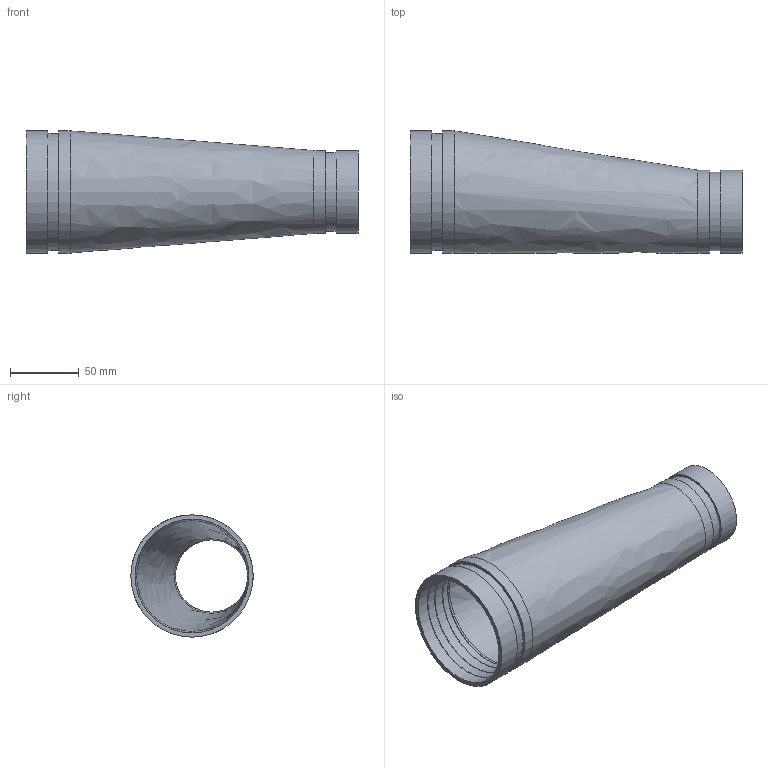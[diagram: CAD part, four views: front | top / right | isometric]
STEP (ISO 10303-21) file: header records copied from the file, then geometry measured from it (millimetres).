
FILE_DESCRIPTION(/* description */ ('VIC REDUCER ECCENTRIC No 451H-SS','CAx-IF Rec.Pracs.---Representation and Presentation of Product Manufacturing Information (PMI)---4.0---2014-10-13'),/* implementation_level */ '2;1');
FILE_NAME(/* name */ 'C:\Users\kkamble\AppData\Roaming\Autodesk\ApplicationPlugins\Back Up\Victaulic_SS-OGS_Reducer Eccentric_Sched 40S_No 451H SS (OGS)\Victaulic_SS-OGS_Reducer Eccentric_Sched 40S_No 451H SS (OGS)_03.0x02.0 (80x50).stp',/* time_stamp */ '2020-08-25T18:05:39+06:00',/* author */ ('CORINNE GRAY'),/* organization */ ('Victaulic'),/* preprocessor_version */ 'ST-DEVELOPER v17.2',/* originating_system */ 'Autodesk Inventor 2019',/* authorisation */ '');
FILE_SCHEMA (('AP242_MANAGED_MODEL_BASED_3D_ENGINEERING_MIM_LF { 1 0 10303 442 1 1 4 }'));
Length unit declared in the file: inch
Products named in the file (1): 451H SS-03.0x02.0
Bounding box: 241.3 x 88.9 x 88.9 mm (x, y, z)
Volume: 157981.6 mm3; surface area: 111808.8 mm2
Topology: 1 solids, 1 shells, 32 faces, 111 edges, 85 vertices
Faces by surface type: cylinder 12, torus 8, plane 6, cone 4, bspline 2
Full cylindrical faces by diameter (mm): 52.578 x1, 54.864 x2, 57.15 x1, 60.325 x2, 80.67 x1, 82.804 x2, 84.938 x1, 88.9 x2
Entity records: 1504 total; most frequent: DIRECTION 290, CARTESIAN_POINT 282, ORIENTED_EDGE 222, AXIS2_PLACEMENT_3D 137, EDGE_CURVE 111, CIRCLE 93, VERTEX_POINT 85, EDGE_LOOP 38
